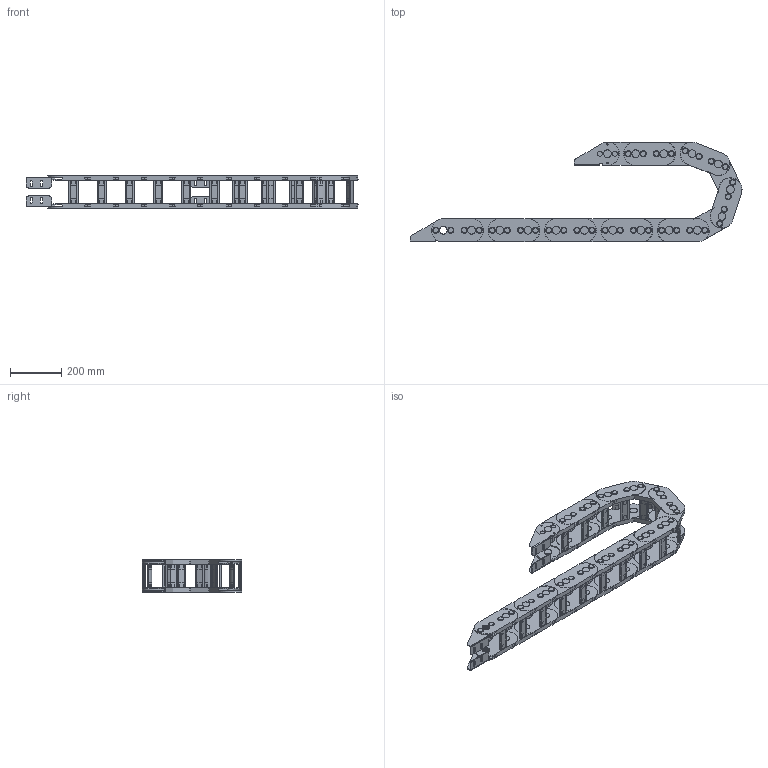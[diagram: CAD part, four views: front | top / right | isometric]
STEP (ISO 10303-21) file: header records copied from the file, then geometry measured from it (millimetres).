
FILE_DESCRIPTION((''),'2;1');
FILE_NAME('GD-65-R150_ASM','2022-07-05T20:56:33',('admin'),(''),'CREO PARAMETRIC BY PTC INC, 2021164','CREO PARAMETRIC BY PTC INC, 2021164','');
FILE_SCHEMA(('CONFIG_CONTROL_DESIGN','GEOMETRIC_VALIDATION_PROPERTIES_MIM'));
Length unit declared in the file: millimetre
Products named in the file (5): 65-R150; 65-R150-1; TLT-1; TLT-2; GD-65-R150_ASM
Assembly tree (18 placements, depth 2):
  GD-65-R150_ASM
    65-R150  x8
    65-R150-1  x8
    TLT-1
    TLT-2
Bounding box: 1293.94 x 388.57 x 130.2 mm (x, y, z)
Volume: 6984315.6 mm3; surface area: 2127443.7 mm2
Topology: 68 solids, 68 shells, 2092 faces, 5478 edges, 3722 vertices
Faces by surface type: cylinder 1004, plane 928, cone 160
Entity records: 16167 total; most frequent: DIRECTION 2482, CARTESIAN_POINT 2384, ORIENTED_EDGE 2220, EDGE_CURVE 1110, AXIS2_PLACEMENT_3D 949, VERTEX_POINT 754, PRESENTATION_STYLE_ASSIGNMENT 634, STYLED_ITEM 633
